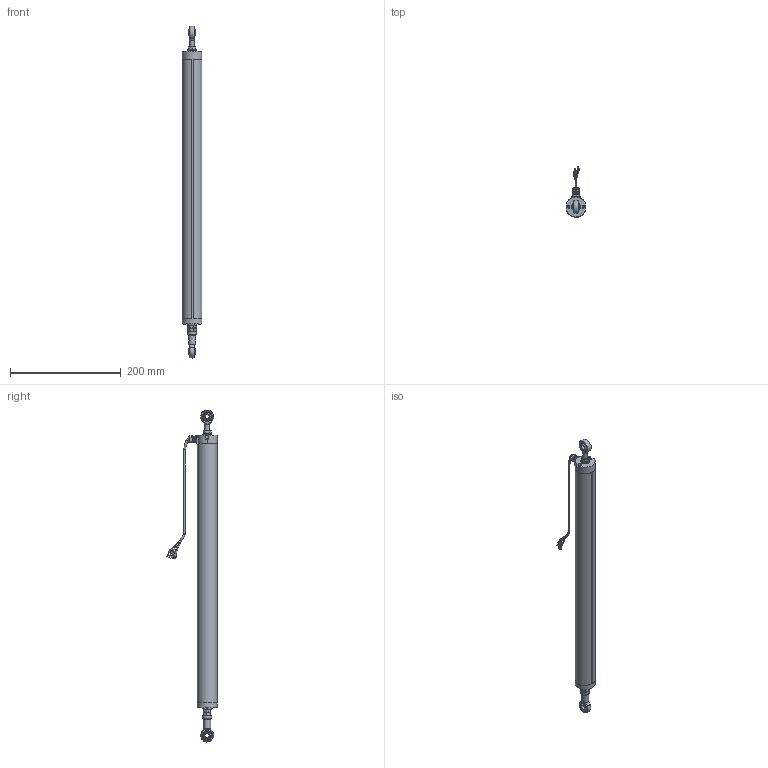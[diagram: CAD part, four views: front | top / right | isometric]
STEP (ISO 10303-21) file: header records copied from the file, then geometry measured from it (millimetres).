
FILE_DESCRIPTION(/* description */ (''),/* implementation_level */ '2;1');
FILE_NAME(/* name */ 'C:\Users\Justin\Documents\CAD\The Sensor Connection\LPPS\LPPS-36B Series\3D\LPPS 36B-400\LPPS 36B-400 Assembly.stp',/* time_stamp */ '2020-09-17T15:04:41-04:00',/* author */ ('Justin'),/* organization */ (''),/* preprocessor_version */ 'ST-DEVELOPER v18.1',/* originating_system */ 'Autodesk Inventor 2021',/* authorisation */ '');
FILE_SCHEMA (('AUTOMOTIVE_DESIGN { 1 0 10303 214 3 1 1 }'));
Length unit declared in the file: inch
Products named in the file (3): LPPS 36B-400 Assembly; LPPS 36B-400_Shrinkwrap_1; LPPS 36B-400_Shrinkwrap
Assembly tree (2 placements, depth 2):
  LPPS 36B-400 Assembly
    LPPS 36B-400_Shrinkwrap_1
    LPPS 36B-400_Shrinkwrap
Bounding box: 36 x 90.87 x 599.86 mm (x, y, z)
Volume: 181838.2 mm3; surface area: 150976.7 mm2
Topology: 27 solids, 27 shells, 548 faces, 1212 edges, 745 vertices
Faces by surface type: cylinder 198, plane 193, torus 73, cone 60, bspline 19, sphere 5
Full cylindrical faces by diameter (mm): 2.5 x2, 3 x6, 3.175 x3, 3.5 x5, 3.708 x1, 5 x3, 5.5 x1, 6 x2, 6.647 x1, 7 x3, 8 x11, 8.1 x1, 8.4 x1, 9 x1, 10 x1, 11 x1, 12.5 x1, 15 x4, 15.8 x1, 16 x1, 18.5 x3, 36 x1
Entity records: 16759 total; most frequent: CARTESIAN_POINT 3781, DIRECTION 2718, ORIENTED_EDGE 2424, EDGE_CURVE 1212, AXIS2_PLACEMENT_3D 1138, VERTEX_POINT 745, EDGE_LOOP 617, CIRCLE 595
